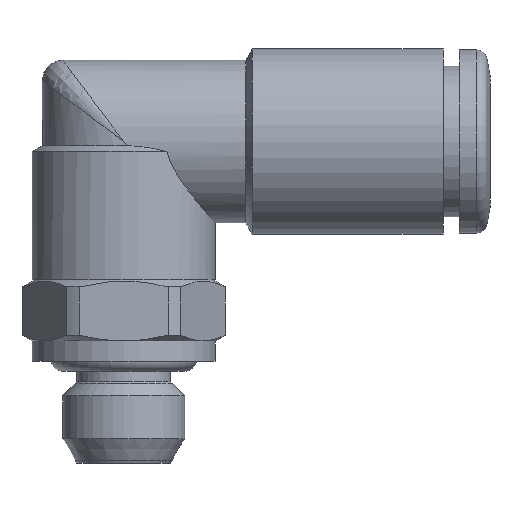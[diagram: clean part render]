
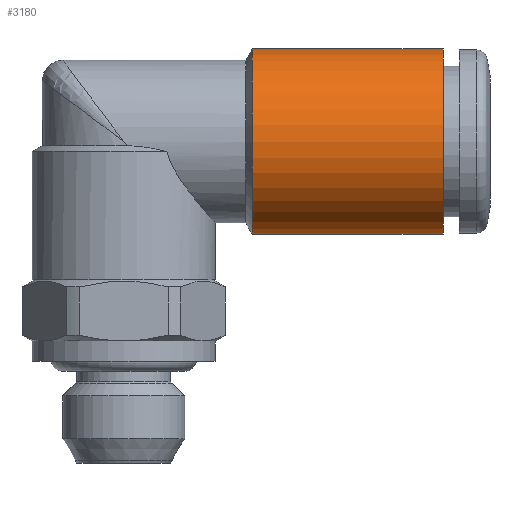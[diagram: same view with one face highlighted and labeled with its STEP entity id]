
A CAD part, front view. The second image highlights one B-rep face of the part: STEP entity #3180.
In plain terms, the highlighted cylindrical face has radius 4.55 mm (diameter 9.1 mm), a full revolution.
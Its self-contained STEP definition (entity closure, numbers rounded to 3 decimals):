
#3180=ADVANCED_FACE('', (#3190,#3200), #3210, .T.);
#9630=AXIS2_PLACEMENT_3D('Ax2Pl3d', #9640, #9650, #9660);
#10390=AXIS2_PLACEMENT_3D('Ax2Pl3d', #10400, #10410, #10420);
#10430=AXIS2_PLACEMENT_3D('Ax2Pl3d', #10440, #10450, #10460);
#9640=CARTESIAN_POINT('HicPkt', (24.991,6.085,
16.862));
#23620=CARTESIAN_POINT('', (24.991,6.085,21.412));
#10400=CARTESIAN_POINT('HicPkt', (15.609,6.085,
16.862));
#10440=CARTESIAN_POINT('HicPkt', (15.609,6.085,
16.862));
#23740=CARTESIAN_POINT('', (15.609,6.085,21.412));
#24500=CIRCLE('Circle', #9630, 4.55);
#24580=CIRCLE('Circle', #10430, 4.55);
#3210=CYLINDRICAL_SURFACE('Zyl', #10390, 4.55);
#9650=DIRECTION('Axis', (1.,0.,0.));
#9660=DIRECTION('RefDirection', (0.,0.,-1.));
#10410=DIRECTION('Axis', (1.,0.,0.));
#10420=DIRECTION('RefDirection', (0.,0.,-1.));
#10450=DIRECTION('Axis', (1.,0.,0.));
#10460=DIRECTION('RefDirection', (0.,0.,-1.));
#30630=EDGE_CURVE('', #30640, #30640, #24500, .T.);
#30970=EDGE_CURVE('', #30980, #30980, #24580, .T.);
#34890=EDGE_LOOP('Edge_loop', (#34900));
#34910=EDGE_LOOP('Edge_loop', (#34920));
#3200=FACE_BOUND('', #34910, .T.);
#3190=FACE_OUTER_BOUND('Face_outer_bound', #34890, .T.);
#34900=ORIENTED_EDGE('', *, *, #30630, .F.);
#34920=ORIENTED_EDGE('', *, *, #30970, .T.);
#30640=VERTEX_POINT('', #23620);
#30980=VERTEX_POINT('', #23740);
